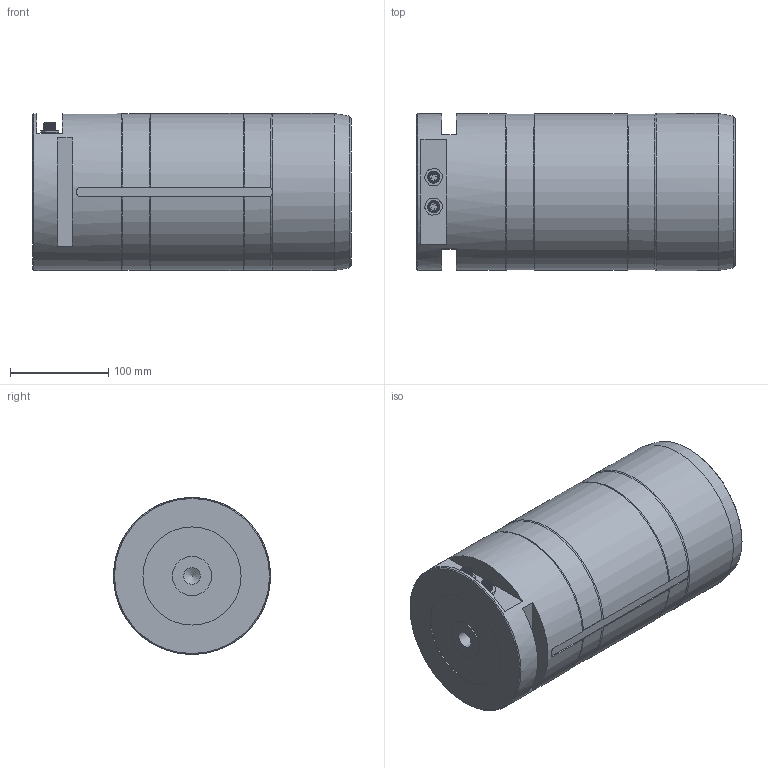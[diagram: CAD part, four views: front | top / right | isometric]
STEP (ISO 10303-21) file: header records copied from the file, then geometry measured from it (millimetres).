
FILE_DESCRIPTION(/* description */ ('Alibre Inc.'),/* implementation_level */ '2;1');
FILE_NAME(/* name */ 'export0',/* time_stamp */ '2015-09-07T21:16:29+02:00',/* author */ (''),/* organization */ (''),/* preprocessor_version */ 'ST-DEVELOPER v14',/* originating_system */ 'Alibre',/* authorisation */ '');
FILE_SCHEMA (('CONFIG_CONTROL_DESIGN'));
Length unit declared in the file: centimetre
Products named in the file (6): ID_1; ID_2; ID_3; ID_4
Bounding box: 324 x 160 x 160 mm (x, y, z)
Volume: 6366644.4 mm3; surface area: 223480.8 mm2
Topology: 15 solids, 15 shells, 266 faces, 586 edges, 363 vertices
Faces by surface type: plane 105, cylinder 90, bspline 46, cone 15, torus 10
Full cylindrical faces by diameter (mm): 0.5 x16, 8 x4, 10 x6, 11.5 x2, 13 x2, 14.376 x2, 17.294 x2, 40 x1, 100 x1, 160 x2
Entity records: 14968 total; most frequent: CARTESIAN_POINT 11405, ORIENTED_EDGE 656, DIRECTION 441, EDGE_CURVE 323, VERTEX_POINT 220, FACE_BOUND 218, EDGE_LOOP 215, AXIS2_PLACEMENT_3D 197
